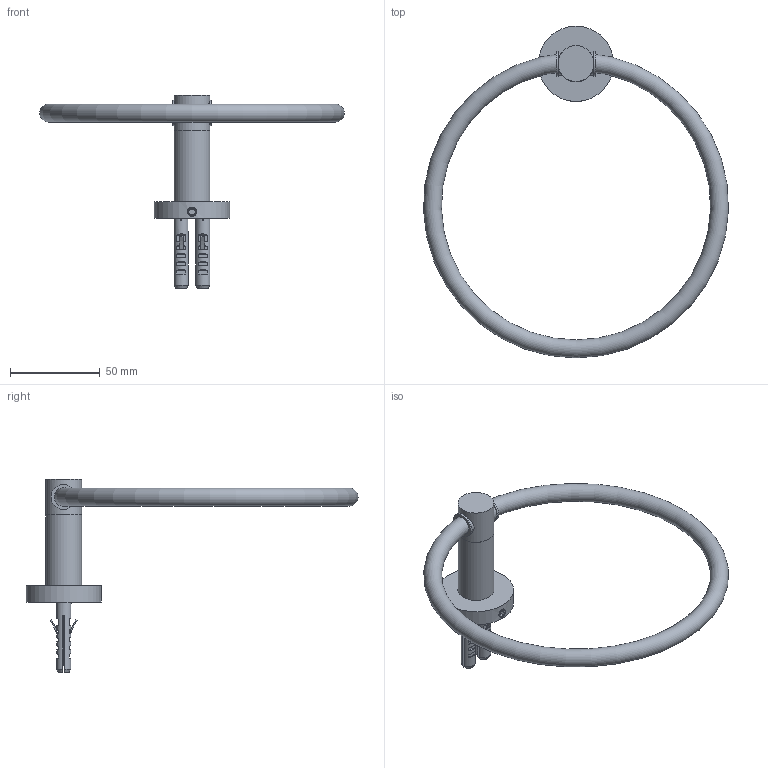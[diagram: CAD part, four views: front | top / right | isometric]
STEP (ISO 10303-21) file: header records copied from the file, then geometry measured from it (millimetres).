
FILE_DESCRIPTION(/* description */ (''),/* implementation_level */ '2;1');
FILE_NAME(/* name */ 'c:\worker\convert-fusion-mar-2019\tmp\job-1\58\output\files\f3b76606-af60-4669-873a-d37aa0341251\1534b3ac-5cba-47e6-bc51-c86c3444c045.zip.stp',/* time_stamp */ '2019-03-22T07:49:33+00:00',/* author */ (''),/* organization */ (''),/* preprocessor_version */ 'ST-DEVELOPER v17.2',/* originating_system */ 'Autodesk Translation Framework v7.6.0.251',/* authorisation */ '');
FILE_SCHEMA (('AUTOMOTIVE_DESIGN { 1 0 10303 214 3 1 1 }'));
Length unit declared in the file: millimetre
Products named in the file (1): !MP60230
Bounding box: 169.92 x 185 x 108 mm (x, y, z)
Volume: 23341.1 mm3; surface area: 53324.7 mm2
Topology: 14 solids, 14 shells, 530 faces, 1407 edges, 931 vertices
Faces by surface type: plane 198, cylinder 186, bspline 100, cone 38, torus 8
Full cylindrical faces by diameter (mm): 3.8 x62, 4.2 x6, 5 x67, 5.126 x2, 5.2 x1, 7 x1, 7.5 x2, 8 x2, 10.5 x2, 12.7 x3, 14 x2, 16 x1, 18.2 x1, 18.8 x1, 20 x2, 20.2 x1, 42 x1
Entity records: 57783 total; most frequent: CARTESIAN_POINT 45593, ORIENTED_EDGE 2810, DIRECTION 2034, EDGE_CURVE 1405, VERTEX_POINT 932, AXIS2_PLACEMENT_3D 710, LINE 614, VECTOR 614
